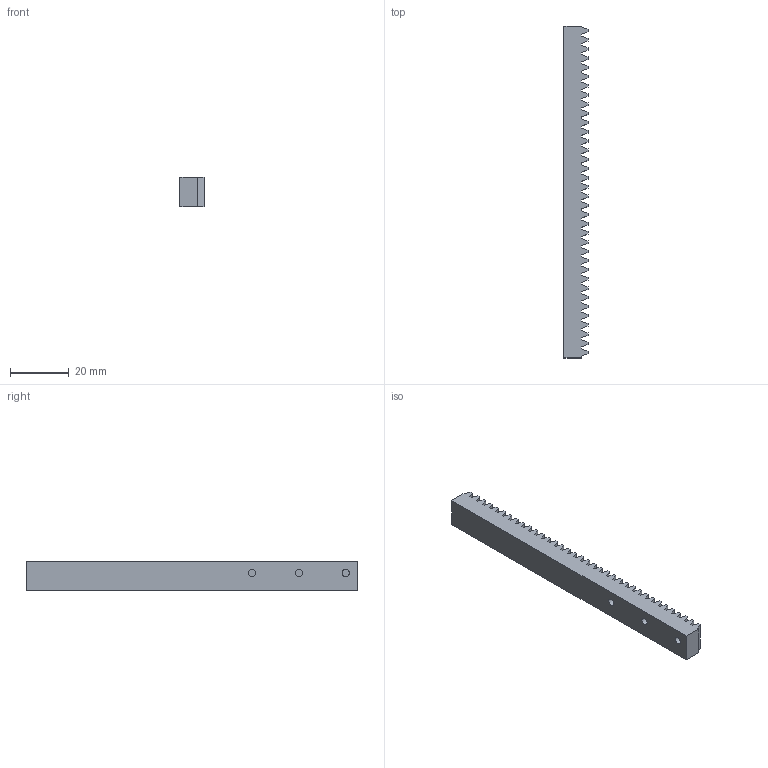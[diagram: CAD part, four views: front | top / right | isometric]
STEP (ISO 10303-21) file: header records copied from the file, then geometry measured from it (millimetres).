
FILE_DESCRIPTION(('Open CASCADE Model'),'2;1');
FILE_NAME('Open CASCADE Shape Model','2026-10-16T05:11:25',('Author'),( 'Open CASCADE'),'Open CASCADE STEP processor 7.9','Open CASCADE 7.9' ,'Unknown');
FILE_SCHEMA(('AUTOMOTIVE_DESIGN { 1 0 10303 214 1 1 1 1 }'));
Length unit declared in the file: millimetre
Products named in the file (1): Open CASCADE STEP translator 7.9 15
Bounding box: 8.25 x 113.4 x 10 mm (x, y, z)
Volume: 8072.6 mm3; surface area: 5276 mm2
Topology: 1 solids, 1 shells, 156 faces, 453 edges, 302 vertices
Faces by surface type: plane 153, cylinder 3
Full cylindrical faces by diameter (mm): 2.5 x3
Entity records: 10942 total; most frequent: CARTESIAN_POINT 1818, DIRECTION 1679, LINE 1347, VECTOR 1347, ORIENTED_EDGE 906, PCURVE 906, DEFINITIONAL_REPRESENTATION 906, EDGE_CURVE 453
